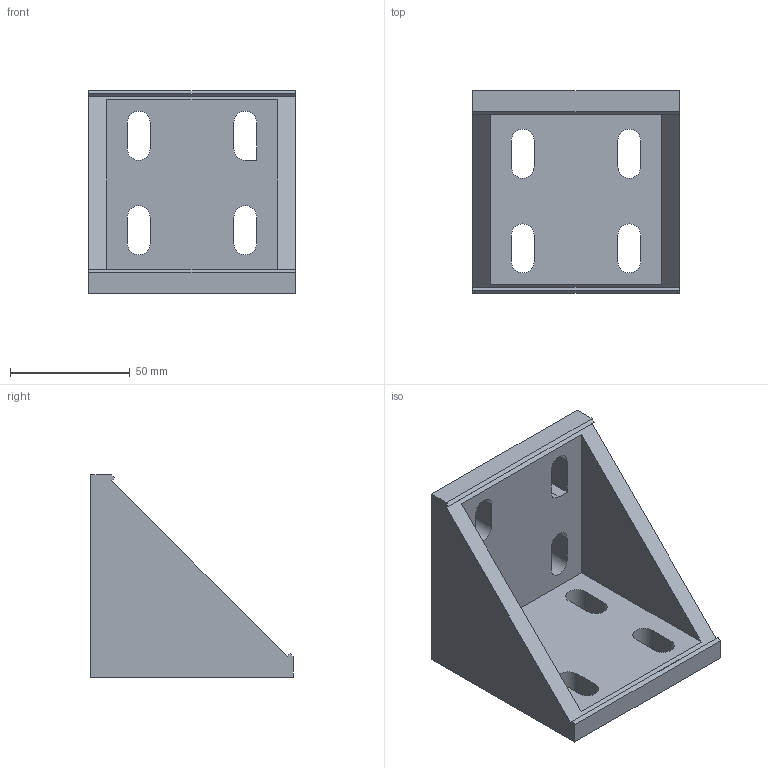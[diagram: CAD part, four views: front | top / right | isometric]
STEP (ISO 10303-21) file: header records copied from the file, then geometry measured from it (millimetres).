
FILE_DESCRIPTION (( 'STEP AP203' ), '1' );
FILE_NAME ('290BK90.STEP', '2018-07-03T12:57:13', ( '' ), ( '' ), 'SwSTEP 2.0', 'SolidWorks 2014', '' );
FILE_SCHEMA (( 'CONFIG_CONTROL_DESIGN' ));
Length unit declared in the file: millimetre
Products named in the file (1): 290BK90
Bounding box: 86 x 84.5 x 84.5 mm (x, y, z)
Volume: 159799.6 mm3; surface area: 43032.5 mm2
Topology: 1 solids, 1 shells, 48 faces, 135 edges, 90 vertices
Faces by surface type: plane 32, cylinder 16
Entity records: 1660 total; most frequent: CARTESIAN_POINT 274, ORIENTED_EDGE 270, DIRECTION 265, EDGE_CURVE 135, LINE 103, VECTOR 103, VERTEX_POINT 90, AXIS2_PLACEMENT_3D 81
